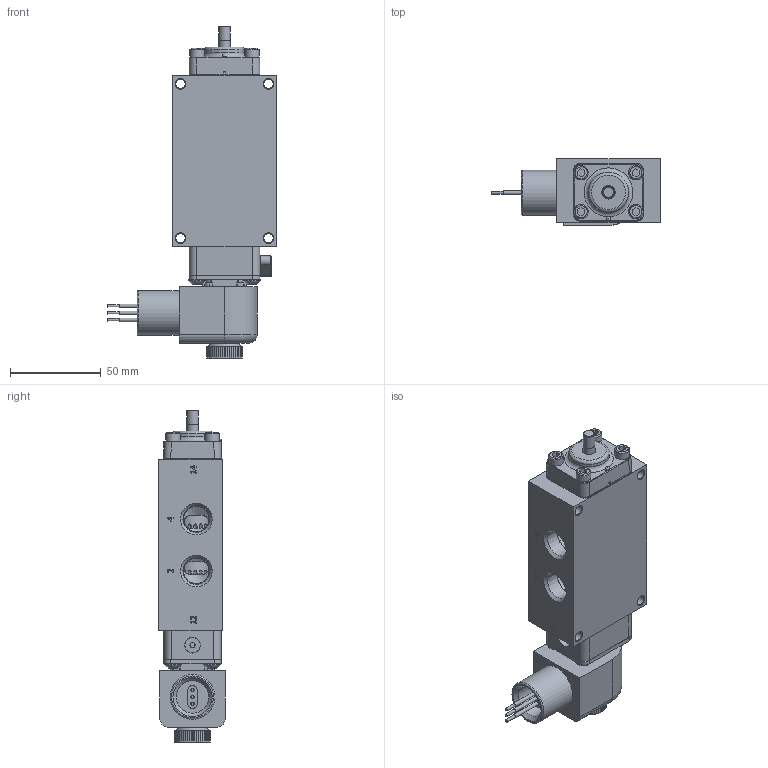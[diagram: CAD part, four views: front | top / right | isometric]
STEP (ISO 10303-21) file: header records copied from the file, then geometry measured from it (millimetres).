
FILE_DESCRIPTION(/* description */ (''),/* implementation_level */ '2;1');
FILE_NAME(/* name */ 'ZESO3XOLKZ.stp',/* time_stamp */ '2026-08-06T16:03:31-04:00',/* author */ ('rmckenna'),/* organization */ (''),/* preprocessor_version */ 'ST-DEVELOPER v20.1',/* originating_system */ 'Autodesk Inventor 2026',/* authorisation */ '');
FILE_SCHEMA (('AUTOMOTIVE_DESIGN { 1 0 10303 214 3 1 1 }'));
Products named in the file (1): Part107
Bounding box: 92.94 x 36.57 x 182.79 mm (x, y, z)
Volume: 239583.5 mm3; surface area: 79749 mm2
Topology: 1 solids, 19 shells, 1687 faces, 4204 edges, 2680 vertices
Faces by surface type: plane 822, cylinder 402, cone 246, torus 122, bspline 90, sphere 5
Full cylindrical faces by diameter (mm): 1.3 x1, 1.397 x1, 1.5 x1, 1.524 x3, 2.032 x11, 2.35 x4, 2.381 x1, 2.5 x1, 2.8 x1, 3 x4, 3.048 x1, 3.175 x1, 3.4 x1, 3.683 x9, 4.191 x2, 4.394 x1, 4.826 x8, 5.15 x4, 5.156 x12, 5.5 x1, 6.35 x4, 6.65 x1, 7.315 x1, 7.541 x1, 7.9 x1, 7.938 x4, 8 x2, 8.128 x1, 8.153 x1, 8.433 x1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
Entity records: 59925 total; most frequent: CARTESIAN_POINT 18009, ORIENTED_EDGE 8388, DIRECTION 8238, EDGE_CURVE 4194, AXIS2_PLACEMENT_3D 3020, VERTEX_POINT 2679, LINE 2198, VECTOR 2198
